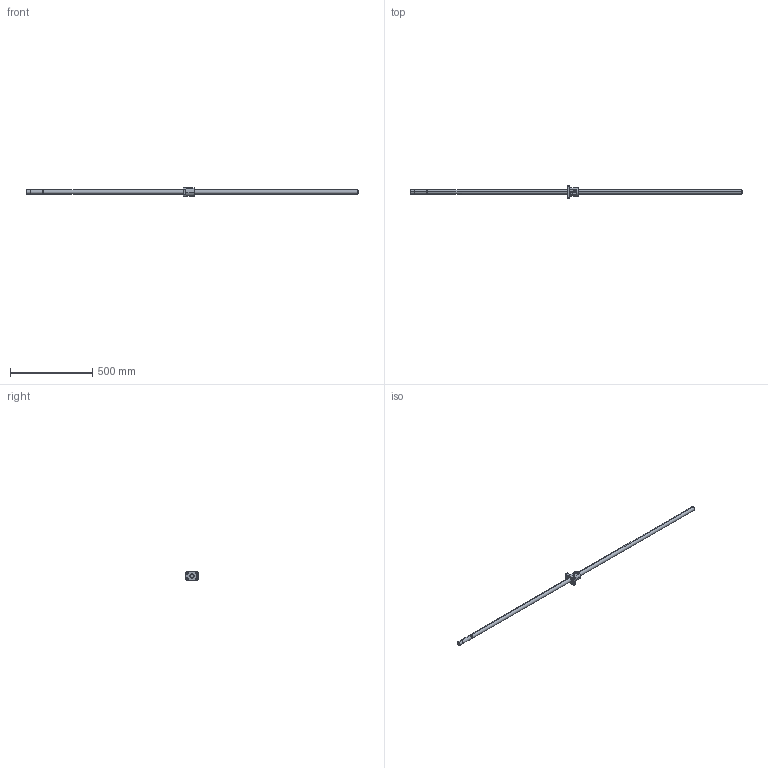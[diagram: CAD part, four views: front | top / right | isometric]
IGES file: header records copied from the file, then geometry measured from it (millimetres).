
Global section: file name: No Iges File Name specified; native system: AutoDesk Inventor R10; preprocessor: AutoDesk Inventor Iges Exporter R10; author: No Author specified; organization: No Organization specified; date: 20101224.142128; units: millimetre
Bounding box: 2020 x 78 x 52 mm (x, y, z)
Surface area: 187965.9 mm2 (no closed solid volume)
Topology: 0 solids, 0 shells, 136 faces, 970 edges, 968 vertices
Faces by surface type: bspline 136
